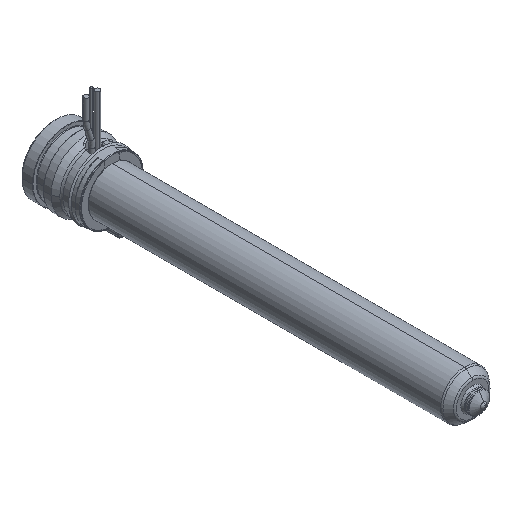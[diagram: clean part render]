
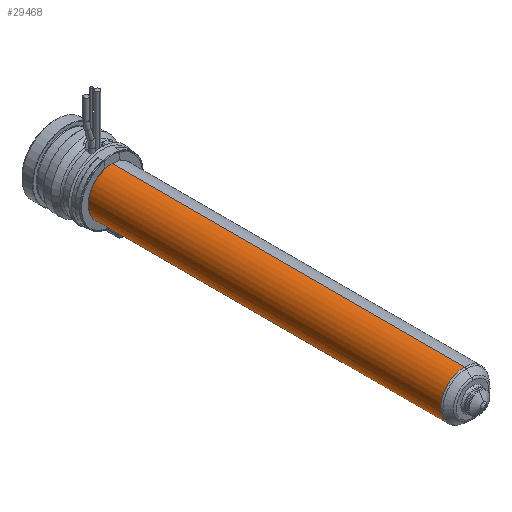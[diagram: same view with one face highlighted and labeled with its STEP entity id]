
A CAD part, isometric view. The second image highlights one B-rep face of the part: STEP entity #29468.
In plain terms, the highlighted cylindrical face has radius 9 mm (diameter 18 mm), a partial arc.
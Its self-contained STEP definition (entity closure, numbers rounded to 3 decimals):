
#28872=CARTESIAN_POINT('',(0.,-155.836,0.));
#28873=DIRECTION('',(0.,-1.,0.));
#28874=DIRECTION('',(0.,0.,1.));
#28875=AXIS2_PLACEMENT_3D('',#28872,#28873,#28874);
#28877=CARTESIAN_POINT('',(0.,-22.,0.));
#28878=DIRECTION('',(0.,1.,0.));
#28879=DIRECTION('',(0.,0.,-1.));
#28880=AXIS2_PLACEMENT_3D('',#28877,#28878,#28879);
#28882=DIRECTION('',(0.,1.,0.));
#28883=VECTOR('',#28882,133.836);
#28884=CARTESIAN_POINT('',(0.,-155.836,9.));
#28885=LINE('',#28884,#28883);
#28891=DIRECTION('',(0.,1.,0.));
#28892=VECTOR('',#28891,133.836);
#28893=CARTESIAN_POINT('',(0.,-155.836,-9.));
#28894=LINE('',#28893,#28892);
#29011=CARTESIAN_POINT('',(0.,-155.836,9.));
#29012=CARTESIAN_POINT('',(0.,-22.,9.));
#29013=VERTEX_POINT('',#29011);
#29014=VERTEX_POINT('',#29012);
#29015=CARTESIAN_POINT('',(0.,-155.836,-9.));
#29016=CARTESIAN_POINT('',(0.,-22.,-9.));
#29017=VERTEX_POINT('',#29015);
#29018=VERTEX_POINT('',#29016);
#29454=CARTESIAN_POINT('',(0.,-10.7,0.));
#29455=DIRECTION('',(0.,-1.,0.));
#29456=DIRECTION('',(0.,0.,1.));
#29457=AXIS2_PLACEMENT_3D('',#29454,#29455,#29456);
#29458=CYLINDRICAL_SURFACE('',#29457,9.);
#29460=ORIENTED_EDGE('',*,*,#29459,.F.);
#29461=ORIENTED_EDGE('',*,*,#29442,.T.);
#29463=ORIENTED_EDGE('',*,*,#29462,.T.);
#29465=ORIENTED_EDGE('',*,*,#29464,.T.);
#29466=EDGE_LOOP('',(#29460,#29461,#29463,#29465));
#29467=FACE_OUTER_BOUND('',#29466,.F.);
#29468=ADVANCED_FACE('',(#29467),#29458,.T.);
#28876=CIRCLE('',#28875,9.);
#28881=CIRCLE('',#28880,9.);
#29442=EDGE_CURVE('',#29013,#29017,#28876,.T.);
#29459=EDGE_CURVE('',#29013,#29014,#28885,.T.);
#29462=EDGE_CURVE('',#29017,#29018,#28894,.T.);
#29464=EDGE_CURVE('',#29018,#29014,#28881,.T.);
